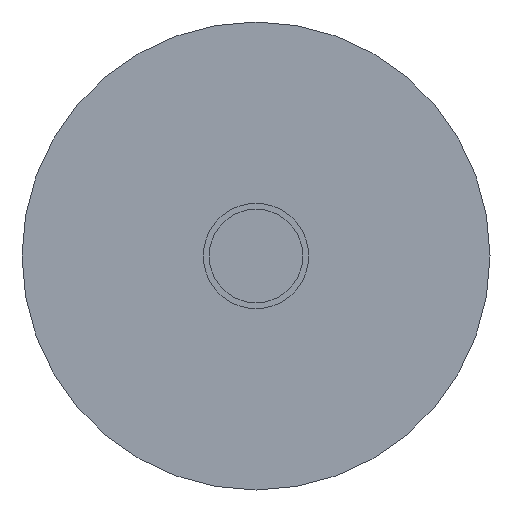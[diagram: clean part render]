
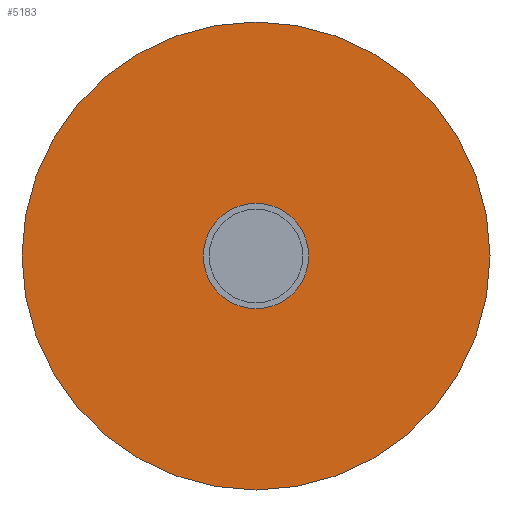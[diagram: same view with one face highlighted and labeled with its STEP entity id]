
A CAD part, front view. The second image highlights one B-rep face of the part: STEP entity #5183.
In plain terms, the highlighted planar face has unit normal (0, -1, 0).
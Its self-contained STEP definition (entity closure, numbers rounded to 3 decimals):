
#108 = CARTESIAN_POINT ( 'NONE',  ( 0., 0., 30. ) ) ;
#281 = EDGE_CURVE ( 'NONE', #8553, #9206, #6718, .T. ) ;
#285 = ORIENTED_EDGE ( 'NONE', *, *, #10271, .T. ) ;
#313 = AXIS2_PLACEMENT_3D ( 'NONE', #7220, #8248, #3255 ) ;
#606 = ORIENTED_EDGE ( 'NONE', *, *, #281, .F. ) ;
#750 = AXIS2_PLACEMENT_3D ( 'NONE', #4527, #6214, #7238 ) ;
#1106 = AXIS2_PLACEMENT_3D ( 'NONE', #8517, #5500, #6506 ) ;
#1970 = AXIS2_PLACEMENT_3D ( 'NONE', #12749, #6856, #3765 ) ;
#2558 = EDGE_CURVE ( 'NONE', #10382, #8314, #2879, .T. ) ;
#2754 = EDGE_CURVE ( 'NONE', #9206, #8553, #8753, .T. ) ;
#2879 = CIRCLE ( 'NONE', #313, 6.75 ) ;
#2982 = DIRECTION ( 'NONE',  ( 0., 1., 0. ) ) ;
#3255 = DIRECTION ( 'NONE',  ( 0., 0., 1. ) ) ;
#3765 = DIRECTION ( 'NONE',  ( 0., 0., 1. ) ) ;
#4256 = PLANE ( 'NONE',  #750 ) ;
#4527 = CARTESIAN_POINT ( 'NONE',  ( 0., 0., 0. ) ) ;
#4601 = FACE_BOUND ( 'NONE', #4807, .T. ) ;
#4807 = EDGE_LOOP ( 'NONE', ( #5859, #285 ) ) ;
#5183 = ADVANCED_FACE ( 'NONE', ( #4601, #5997 ), #4256, .F. ) ;
#5500 = DIRECTION ( 'NONE',  ( 0., 1., 0. ) ) ;
#5859 = ORIENTED_EDGE ( 'NONE', *, *, #2558, .T. ) ;
#5942 = ORIENTED_EDGE ( 'NONE', *, *, #2754, .F. ) ;
#5997 = FACE_OUTER_BOUND ( 'NONE', #11688, .T. ) ;
#6214 = DIRECTION ( 'NONE',  ( 0., 1., 0. ) ) ;
#6506 = DIRECTION ( 'NONE',  ( 0., 0., 1. ) ) ;
#6718 = CIRCLE ( 'NONE', #1106, 30. ) ;
#6856 = DIRECTION ( 'NONE',  ( 0., 1., 0. ) ) ;
#6943 = CARTESIAN_POINT ( 'NONE',  ( 0., 0., 0. ) ) ;
#7220 = CARTESIAN_POINT ( 'NONE',  ( 0., 0., 0. ) ) ;
#7238 = DIRECTION ( 'NONE',  ( 0., 0., 1. ) ) ;
#7247 = CARTESIAN_POINT ( 'NONE',  ( 0., 0., -30. ) ) ;
#8248 = DIRECTION ( 'NONE',  ( 0., 1., 0. ) ) ;
#8314 = VERTEX_POINT ( 'NONE', #9816 ) ;
#8517 = CARTESIAN_POINT ( 'NONE',  ( 0., 0., 0. ) ) ;
#8553 = VERTEX_POINT ( 'NONE', #7247 ) ;
#8753 = CIRCLE ( 'NONE', #10222, 30. ) ;
#9206 = VERTEX_POINT ( 'NONE', #108 ) ;
#9816 = CARTESIAN_POINT ( 'NONE',  ( 0., 0., -6.75 ) ) ;
#9873 = DIRECTION ( 'NONE',  ( 0., 0., 1. ) ) ;
#10222 = AXIS2_PLACEMENT_3D ( 'NONE', #6943, #2982, #9873 ) ;
#10271 = EDGE_CURVE ( 'NONE', #8314, #10382, #12338, .T. ) ;
#10382 = VERTEX_POINT ( 'NONE', #12013 ) ;
#11688 = EDGE_LOOP ( 'NONE', ( #606, #5942 ) ) ;
#12013 = CARTESIAN_POINT ( 'NONE',  ( 0., 0., 6.75 ) ) ;
#12338 = CIRCLE ( 'NONE', #1970, 6.75 ) ;
#12749 = CARTESIAN_POINT ( 'NONE',  ( 0., 0., 0. ) ) ;
